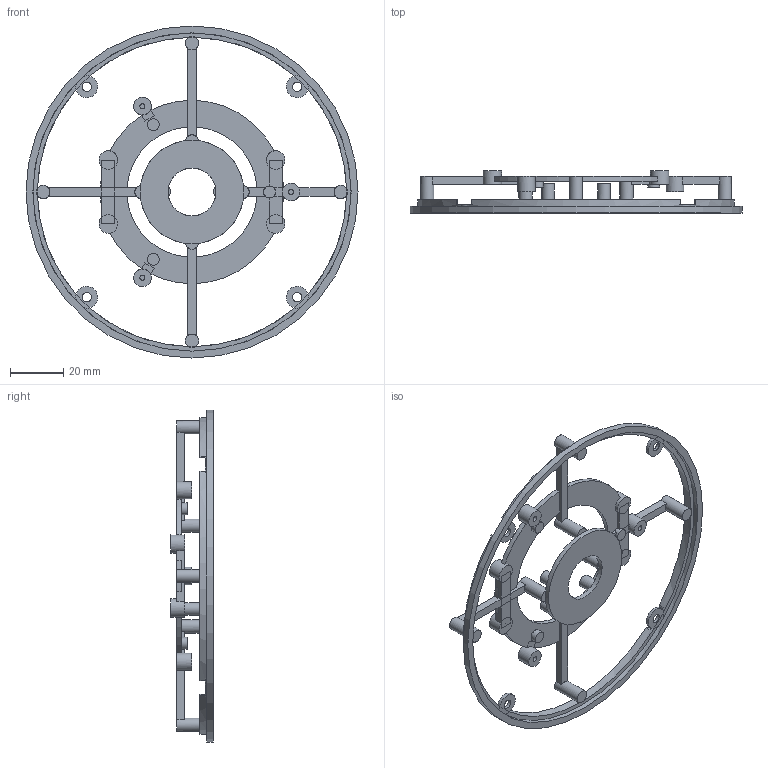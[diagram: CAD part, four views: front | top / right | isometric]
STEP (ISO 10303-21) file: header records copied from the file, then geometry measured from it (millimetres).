
FILE_DESCRIPTION(/* description */ ('Whole front module withdraws through open shell. Camera M2 rear-access pilots on 21 x 12.5 pattern. Speaker M2.5 pilots on exact supplier 64 x 24 pattern. LED board on three feet, 2.25 mm rear solder clearance. Prototype pilot sizes require print coupon.'),/* implementation_level */ '2;1');
FILE_NAME(/* name */ '20 Removable front camera speaker cassette.step',/* time_stamp */ '2026-10-02T21:02:38+01:00',/* author */ (''),/* organization */ (''),/* preprocessor_version */ 'ST-DEVELOPER v20.2',/* originating_system */ 'Autodesk Translation Framework v15.15.0.0',/* authorisation */ '');
FILE_SCHEMA (('AUTOMOTIVE_DESIGN { 1 0 10303 214 3 1 1 }'));
Length unit declared in the file: millimetre
Products named in the file (1): 2026-10-02-21-02-38-790
Bounding box: 125 x 16 x 125 mm (x, y, z)
Volume: 14307.1 mm3; surface area: 18527.9 mm2
Topology: 1 solids, 1 shells, 299 faces, 710 edges, 414 vertices
Faces by surface type: plane 216, cylinder 83
Full cylindrical faces by diameter (mm): 1.9 x7, 2.2 x4, 3.4 x4, 4.5 x3, 4.8 x4, 5 x8, 6.6 x3, 7 x4, 18 x1, 39 x1, 119.8 x1, 125 x1
Entity records: 8647 total; most frequent: DIRECTION 1672, CARTESIAN_POINT 1424, ORIENTED_EDGE 1420, EDGE_CURVE 710, AXIS2_PLACEMENT_3D 662, VERTEX_POINT 414, CIRCLE 362, LINE 348
